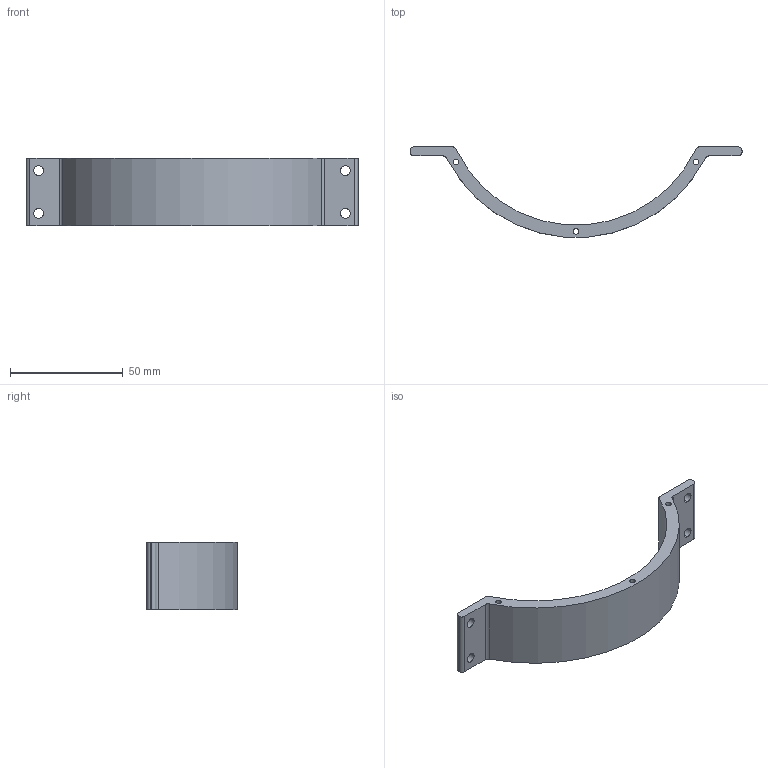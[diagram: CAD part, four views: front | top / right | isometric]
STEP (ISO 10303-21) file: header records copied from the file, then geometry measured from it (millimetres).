
FILE_DESCRIPTION (( 'STEP AP214' ), '1' );
FILE_NAME ('VBROV-M-CRADLE-EXTRUSION-R1.STEP', '2019-05-22T23:26:47', ( '' ), ( '' ), 'SwSTEP 2.0', 'SolidWorks 2016', '' );
FILE_SCHEMA (( 'AUTOMOTIVE_DESIGN' ));
Length unit declared in the file: millimetre
Products named in the file (1): VBROV-M-CRADLE-EXTRUSION-R1
Bounding box: 147.22 x 40.01 x 30 mm (x, y, z)
Volume: 26554 mm3; surface area: 13230 mm2
Topology: 1 solids, 1 shells, 32 faces, 90 edges, 60 vertices
Faces by surface type: cylinder 24, plane 8
Entity records: 1124 total; most frequent: DIRECTION 204, CARTESIAN_POINT 183, ORIENTED_EDGE 180, EDGE_CURVE 90, AXIS2_PLACEMENT_3D 81, VERTEX_POINT 60, CIRCLE 48, EDGE_LOOP 46
